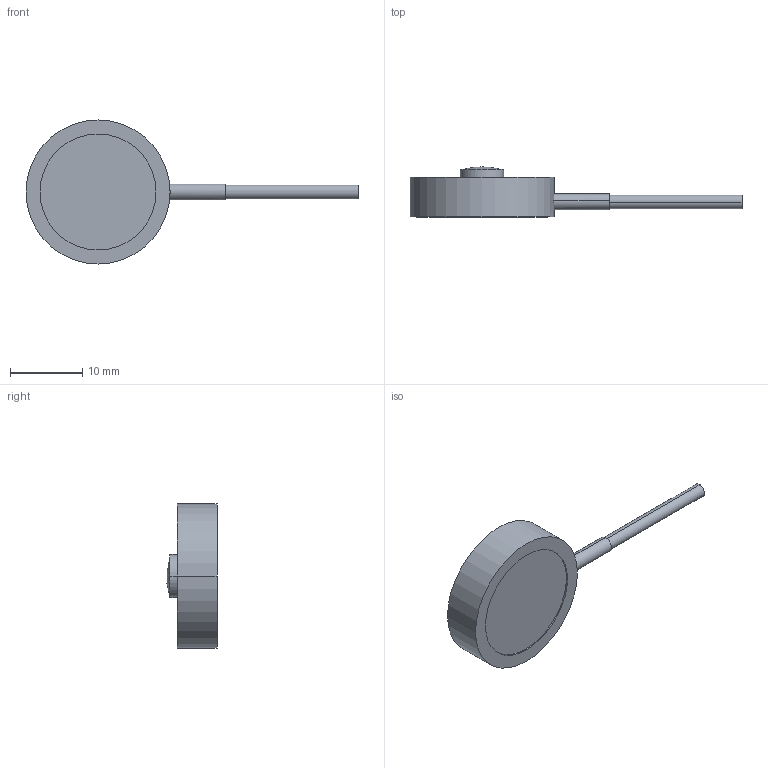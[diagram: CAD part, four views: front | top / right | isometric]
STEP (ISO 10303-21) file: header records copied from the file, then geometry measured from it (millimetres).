
FILE_DESCRIPTION(('STEP AP203'),'1');
FILE_NAME('C:/TPO v2/SharedFS/Outgoing/burster_8415-5200_epy59vc6n98xg2sujlg8sy43l.stp','2013-08-27T15:26:24',('TraceParts'),('TraceParts S.A.'),'XStep 1.0',' ',' ');
FILE_SCHEMA(('CONFIG_CONTROL_DESIGN'));
Length unit declared in the file: millimetre
Products named in the file (1): 1
Bounding box: 46.1 x 6.95 x 20 mm (x, y, z)
Volume: 1684.6 mm3; surface area: 1225.2 mm2
Topology: 1 solids, 1 shells, 23 faces, 54 edges, 37 vertices
Faces by surface type: cylinder 12, plane 6, torus 4, sphere 1
Entity records: 763 total; most frequent: CARTESIAN_POINT 156, DIRECTION 133, ORIENTED_EDGE 108, AXIS2_PLACEMENT_3D 60, EDGE_CURVE 54, VERTEX_POINT 37, CIRCLE 36, EDGE_LOOP 27
